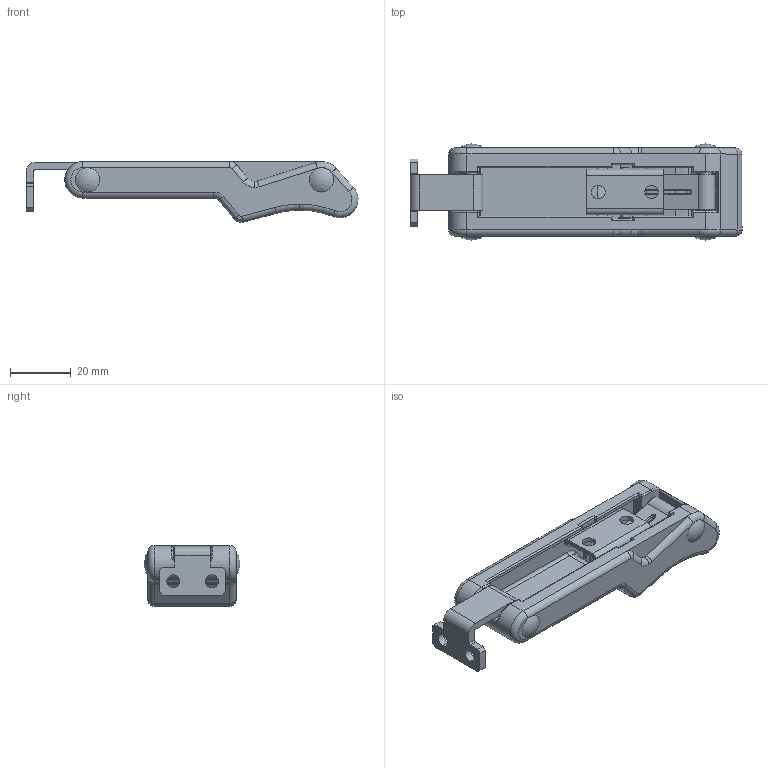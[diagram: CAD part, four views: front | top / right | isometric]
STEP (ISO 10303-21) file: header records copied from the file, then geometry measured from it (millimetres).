
FILE_DESCRIPTION (( 'STEP AP203' ), '1' );
FILE_NAME ('DK609-1Åä3DËø¿Û.STEP', '2022-02-19T00:38:11', ( 'SJ' ), ( '' ), 'SwSTEP 2.0', 'SolidWorks 2020', '' );
FILE_SCHEMA (( 'CONFIG_CONTROL_DESIGN' ));
Length unit declared in the file: millimetre
Products named in the file (8): 8SJ.DK609.0210裔; 8SJ.DK609.0020忒梟; 8SJ.DK609.0230盓殤; 8SJ.DK609.0420蟀諉啣; 8SJ.DK609.0580穩隊; 錨璃53; 8SJ.DK609.0570种赽; DK609-1饜3D坶諶
Assembly tree (11 placements, depth 2):
  DK609-1饜3D坶諶
    8SJ.DK609.0570种赽  x2
    8SJ.DK609.0580穩隊
    8SJ.DK609.0210裔  x4
    8SJ.DK609.0420蟀諉啣
    8SJ.DK609.0020忒梟
    8SJ.DK609.0230盓殤
    錨璃53
Bounding box: 109.24 x 31.6 x 19.99 mm (x, y, z)
Volume: 25008.5 mm3; surface area: 18090.3 mm2
Topology: 11 solids, 14 shells, 380 faces, 929 edges, 577 vertices
Faces by surface type: cylinder 163, plane 111, cone 42, torus 42, bspline 16, sphere 6
Entity records: 12228 total; most frequent: CARTESIAN_POINT 3116, DIRECTION 1777, ORIENTED_EDGE 1690, EDGE_CURVE 845, AXIS2_PLACEMENT_3D 681, VERTEX_POINT 527, LINE 415, VECTOR 415
